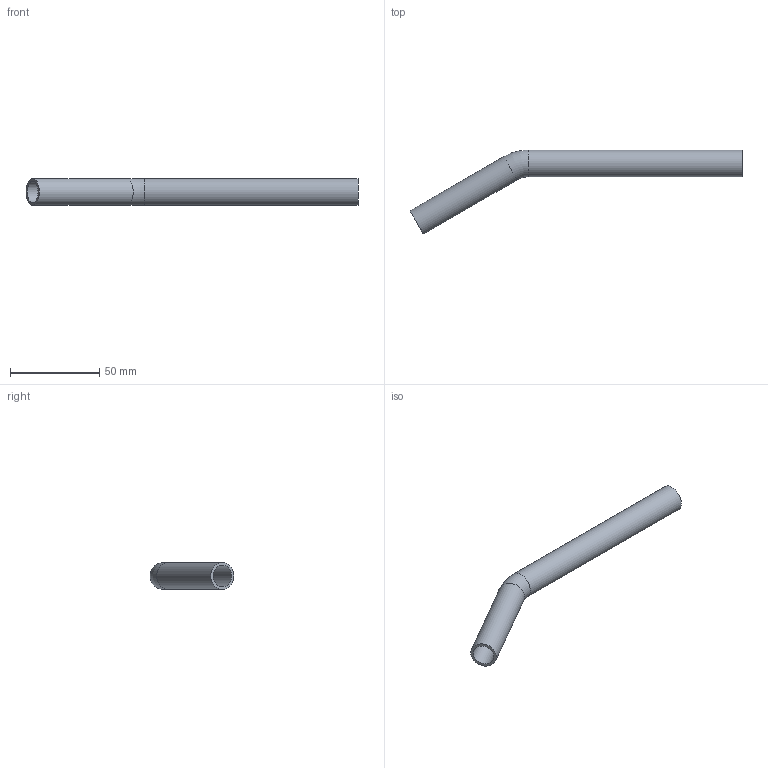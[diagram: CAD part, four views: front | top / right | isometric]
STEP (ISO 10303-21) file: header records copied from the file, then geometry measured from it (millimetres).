
FILE_DESCRIPTION((''),'2;1');
FILE_NAME('G:\Nirosan-Schmiedefeld\Technics\CAD\Bauteile VA\015\6904415(1).stp','2011-10-26T11:55:09',('herberg'),(''),'Autodesk Inventor 2009','Autodesk Inventor 2009','');
FILE_SCHEMA(('AUTOMOTIVE_DESIGN { 1 0 10303 214 1 1 1 1 }'));
Length unit declared in the file: millimetre
Products named in the file (1): 6904415(1)
Bounding box: 185.91 x 47 x 15 mm (x, y, z)
Volume: 12135.2 mm3; surface area: 16307.6 mm2
Topology: 1 solids, 1 shells, 8 faces, 14 edges, 8 vertices
Faces by surface type: cylinder 4, torus 2, plane 2
Full cylindrical faces by diameter (mm): 12 x2, 15 x2
Entity records: 194 total; most frequent: DIRECTION 34, CARTESIAN_POINT 25, AXIS2_PLACEMENT_3D 17, ORIENTED_EDGE 16, EDGE_LOOP 16, VERTEX_POINT 8, CIRCLE 8, EDGE_CURVE 8
